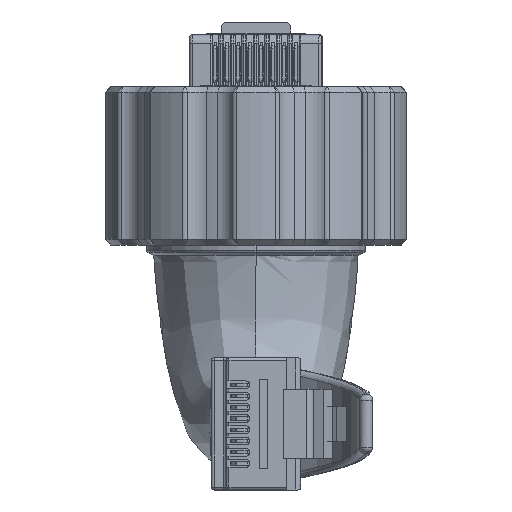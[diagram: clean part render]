
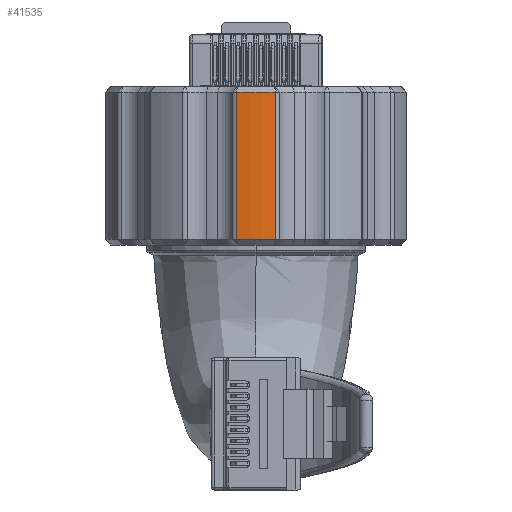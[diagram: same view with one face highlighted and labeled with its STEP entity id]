
A CAD part, front view. The second image highlights one B-rep face of the part: STEP entity #41535.
In plain terms, the highlighted cylindrical face has radius 13.55 mm (diameter 27.1 mm), a partial arc.
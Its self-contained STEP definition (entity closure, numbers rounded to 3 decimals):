
#3647 = ORIENTED_EDGE ( 'NONE', *, *, #11157, .T. ) ;
#4215 = LINE ( 'NONE', #31623, #31143 ) ;
#4258 = EDGE_LOOP ( 'NONE', ( #34376, #3647, #31754, #17306 ) ) ;
#5303 = CYLINDRICAL_SURFACE ( 'NONE', #15522, 13.55 ) ;
#5778 = CARTESIAN_POINT ( 'NONE',  ( 1.707, -13.442, 11. ) ) ;
#6438 = AXIS2_PLACEMENT_3D ( 'NONE', #16893, #43434, #16676 ) ;
#9696 = CIRCLE ( 'NONE', #14590, 13.55 ) ;
#11157 = EDGE_CURVE ( 'NONE', #20168, #15182, #9696, .T. ) ;
#12916 = CARTESIAN_POINT ( 'NONE',  ( -1.707, -13.442, 29.303 ) ) ;
#14590 = AXIS2_PLACEMENT_3D ( 'NONE', #31217, #23721, #30572 ) ;
#14649 = CARTESIAN_POINT ( 'NONE',  ( -1.707, -13.442, 11. ) ) ;
#15182 = VERTEX_POINT ( 'NONE', #21328 ) ;
#15522 = AXIS2_PLACEMENT_3D ( 'NONE', #28972, #29189, #39367 ) ;
#16676 = DIRECTION ( 'NONE',  ( 1., 0., 0. ) ) ;
#16893 = CARTESIAN_POINT ( 'NONE',  ( 0., 0., 11. ) ) ;
#17306 = ORIENTED_EDGE ( 'NONE', *, *, #21815, .T. ) ;
#19978 = DIRECTION ( 'NONE',  ( 0., 0., -1. ) ) ;
#20168 = VERTEX_POINT ( 'NONE', #38414 ) ;
#21328 = CARTESIAN_POINT ( 'NONE',  ( -1.707, -13.442, 24. ) ) ;
#21815 = EDGE_CURVE ( 'NONE', #39949, #38025, #33993, .T. ) ;
#22539 = FACE_OUTER_BOUND ( 'NONE', #4258, .T. ) ;
#23721 = DIRECTION ( 'NONE',  ( 0., 0., -1. ) ) ;
#24823 = EDGE_CURVE ( 'NONE', #38025, #20168, #4215, .T. ) ;
#28307 = DIRECTION ( 'NONE',  ( 0., 0., 1. ) ) ;
#28972 = CARTESIAN_POINT ( 'NONE',  ( 0., 0., 29.303 ) ) ;
#29189 = DIRECTION ( 'NONE',  ( 0., 0., -1. ) ) ;
#29715 = LINE ( 'NONE', #12916, #39643 ) ;
#30572 = DIRECTION ( 'NONE',  ( 1., 0., 0. ) ) ;
#31143 = VECTOR ( 'NONE', #28307, 1000. ) ;
#31217 = CARTESIAN_POINT ( 'NONE',  ( 0., 0., 24. ) ) ;
#31623 = CARTESIAN_POINT ( 'NONE',  ( 1.707, -13.442, 29.303 ) ) ;
#31754 = ORIENTED_EDGE ( 'NONE', *, *, #43545, .T. ) ;
#33993 = CIRCLE ( 'NONE', #6438, 13.55 ) ;
#34376 = ORIENTED_EDGE ( 'NONE', *, *, #24823, .T. ) ;
#38025 = VERTEX_POINT ( 'NONE', #5778 ) ;
#38414 = CARTESIAN_POINT ( 'NONE',  ( 1.707, -13.442, 24. ) ) ;
#39367 = DIRECTION ( 'NONE',  ( -1., 0., 0. ) ) ;
#39643 = VECTOR ( 'NONE', #19978, 1000. ) ;
#39949 = VERTEX_POINT ( 'NONE', #14649 ) ;
#41535 = ADVANCED_FACE ( 'NONE', ( #22539 ), #5303, .T. ) ;
#43434 = DIRECTION ( 'NONE',  ( 0., 0., 1. ) ) ;
#43545 = EDGE_CURVE ( 'NONE', #15182, #39949, #29715, .T. ) ;
